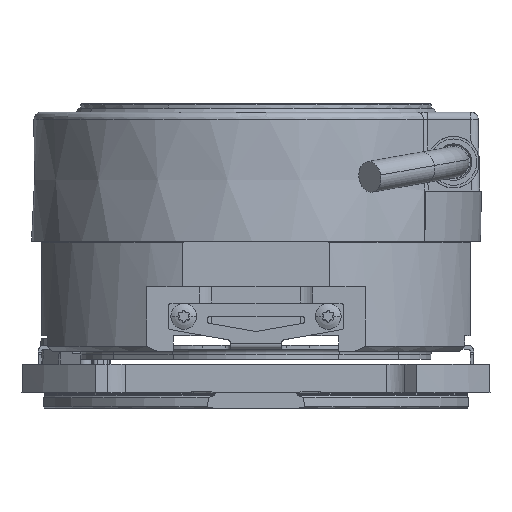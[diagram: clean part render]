
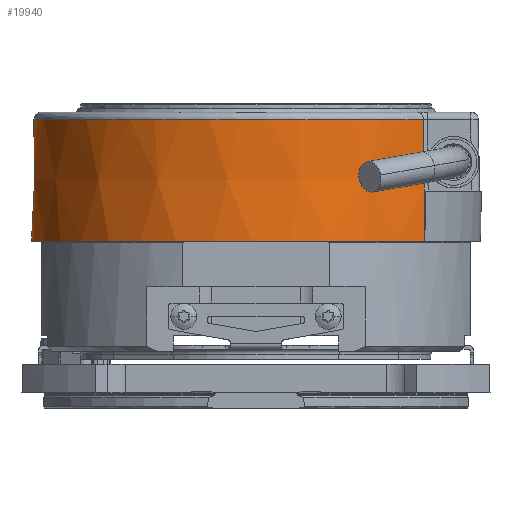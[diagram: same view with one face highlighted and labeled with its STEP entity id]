
A CAD part, left-side view. The second image highlights one B-rep face of the part: STEP entity #19940.
In plain terms, the highlighted conical face has half-angle 1 degrees and reference radius 43.524 mm.
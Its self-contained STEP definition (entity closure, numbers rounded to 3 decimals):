
#18020=CARTESIAN_POINT('',(-42.309,-8.284,
-15.376));
#18030=VERTEX_POINT('',#18020);
#18060=CARTESIAN_POINT('',(-42.309,-8.284,
-15.376));
#18070=CARTESIAN_POINT('',(-42.296,-8.354,
-15.376));
#18080=CARTESIAN_POINT('',(-42.283,-8.425,
-15.376));
#18090=CARTESIAN_POINT('',(-39.855,-20.503,
-15.376));
#18100=CARTESIAN_POINT('',(-32.396,-31.079,
-15.376));
#18110=CARTESIAN_POINT('',(-8.219,-45.037,
-15.376));
#18120=CARTESIAN_POINT('',(8.219,-45.037,
-15.376));
#18130=CARTESIAN_POINT('',(34.894,-29.636,
-15.376));
#18140=CARTESIAN_POINT('',(43.113,-15.401,
-15.376));
#18150=CARTESIAN_POINT('',(43.113,15.401,
-15.376));
#18160=CARTESIAN_POINT('',(34.894,29.636,
-15.376));
#18170=CARTESIAN_POINT('',(8.219,45.037,
-15.376));
#18180=CARTESIAN_POINT('',(-8.219,45.037,
-15.376));
#18190=CARTESIAN_POINT('',(-28.161,33.524,
-15.376));
#18200=CARTESIAN_POINT('',(-33.511,28.108,
-15.376));
#18210=CARTESIAN_POINT('',(-37.265,21.68,
-15.376));
#18220=CARTESIAN_POINT('',(-37.301,21.618,
-15.376));
#18230=CARTESIAN_POINT('',(-37.337,21.556,
-15.376));
#18240=B_SPLINE_CURVE_WITH_KNOTS('',3,(#18060,#18070,#18080,#18090,
#18100,#18110,#18120,#18130,#18140,#18150,#18160,#18170,#18180,#18190,
#18200,#18210,#18220,#18230),.UNSPECIFIED.,.F.,.F.,(4,2,2,2,2,2,2,2,4),(
0.,0.215,37.106,82.498,127.889,
173.281,218.672,241.151,241.368),
.UNSPECIFIED.);
#18250=CARTESIAN_POINT('',(-37.337,21.556,
-15.376));
#18260=VERTEX_POINT('',#18250);
#18270=EDGE_CURVE('',#18030,#18260,#18240,.T.);
#19440=CARTESIAN_POINT('',(0.,0.,
8.15));
#19450=DIRECTION('',(0.,0.,1.));
#19460=DIRECTION('',(-0.866,0.5,0.));
#19470=AXIS2_PLACEMENT_3D('',#19440,#19450,#19460);
#19480=CONICAL_SURFACE('',#19470,43.524,0.017);
#19490=CARTESIAN_POINT('',(0.,0.,
8.15));
#19500=DIRECTION('',(0.,0.,1.));
#19510=DIRECTION('',(-0.866,0.5,0.));
#19520=AXIS2_PLACEMENT_3D('',#19490,#19500,#19510);
#19530=CIRCLE('',#19520,43.524);
#19540=CARTESIAN_POINT('',(-42.692,-8.469,
8.15));
#19550=VERTEX_POINT('',#19540);
#19560=CARTESIAN_POINT('',(-37.693,21.762,
8.152));
#19570=VERTEX_POINT('',#19560);
#19580=EDGE_CURVE('',#19550,#19570,#19530,.T.);
#19590=ORIENTED_EDGE('',*,*,#19580,.F.);
#19600=CARTESIAN_POINT('',(-37.693,21.762,
8.15));
#19610=DIRECTION('',(-0.015,0.009,
1.));
#19620=VECTOR('',#19610,2493.843);
#19630=LINE('',#19600,#19620);
#19640=CARTESIAN_POINT('',(-37.546,21.677,
-1.55));
#19650=VERTEX_POINT('',#19640);
#19660=EDGE_CURVE('',#19650,#19570,#19630,.T.);
#19670=ORIENTED_EDGE('',*,*,#19660,.T.);
#19680=CARTESIAN_POINT('',(-37.693,21.762,
8.15));
#19690=DIRECTION('',(-0.015,0.009,
1.));
#19700=VECTOR('',#19690,2493.843);
#19710=LINE('',#19680,#19700);
#19720=EDGE_CURVE('',#18260,#19650,#19710,.T.);
#19730=ORIENTED_EDGE('',*,*,#19720,.T.);
#19740=ORIENTED_EDGE('',*,*,#18270,.T.);
#19750=CARTESIAN_POINT('',(-42.271,-8.257,
-17.85));
#19760=CARTESIAN_POINT('',(-42.316,-8.289,
-14.968));
#19770=CARTESIAN_POINT('',(-42.361,-8.321,
-12.086));
#19780=CARTESIAN_POINT('',(-42.451,-8.384,
-6.319));
#19790=CARTESIAN_POINT('',(-42.496,-8.416,
-3.435));
#19800=CARTESIAN_POINT('',(-42.541,-8.447,
-0.55));
#19810=B_SPLINE_CURVE_WITH_KNOTS('',3,(#19750,#19760,#19770,#19780,
#19790,#19800),.UNSPECIFIED.,.F.,.F.,(4,2,4),(122.09,
130.738,139.393),.UNSPECIFIED.);
#19820=CARTESIAN_POINT('',(-42.526,-8.436,
-1.55));
#19830=VERTEX_POINT('',#19820);
#19840=EDGE_CURVE('',#18030,#19830,#19810,.T.);
#19850=ORIENTED_EDGE('',*,*,#19840,.F.);
#19860=CARTESIAN_POINT('',(-42.692,-8.469,
8.15));
#19870=DIRECTION('',(-0.017,-0.003,
1.));
#19880=VECTOR('',#19870,2493.843);
#19890=LINE('',#19860,#19880);
#19900=EDGE_CURVE('',#19830,#19550,#19890,.T.);
#19910=ORIENTED_EDGE('',*,*,#19900,.F.);
#19920=EDGE_LOOP('',(#19910,#19850,#19740,#19730,#19670,#19590));
#19930=FACE_OUTER_BOUND('',#19920,.T.);
#19940=ADVANCED_FACE('',(#19930),#19480,.T.);
